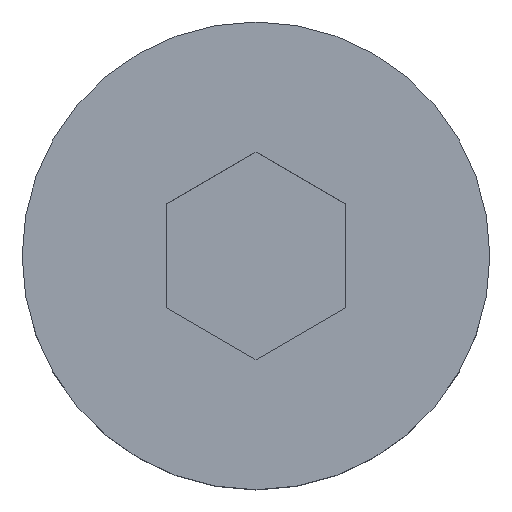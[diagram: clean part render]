
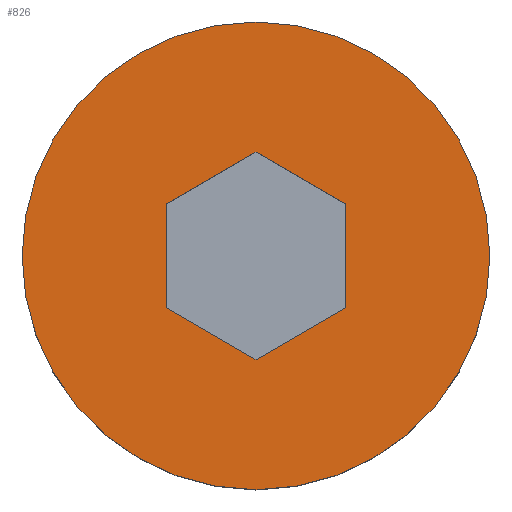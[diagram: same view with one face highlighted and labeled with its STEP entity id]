
A CAD part, top view. The second image highlights one B-rep face of the part: STEP entity #826.
In plain terms, the highlighted planar face has unit normal (0, 0, 1).
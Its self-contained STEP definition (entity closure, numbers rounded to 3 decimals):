
#15 = VECTOR ( 'NONE', #885, 1000. ) ;
#37 = LINE ( 'NONE', #762, #15 ) ;
#62 = VECTOR ( 'NONE', #829, 1000. ) ;
#90 = LINE ( 'NONE', #838, #62 ) ;
#125 = DIRECTION ( 'NONE',  ( 1., 0., 0. ) ) ;
#140 = EDGE_CURVE ( 'NONE', #947, #353, #213, .T. ) ;
#144 = DIRECTION ( 'NONE',  ( 0., 0., 1. ) ) ;
#154 = CARTESIAN_POINT ( 'NONE',  ( 0., 0., 8. ) ) ;
#188 = LINE ( 'NONE', #686, #1092 ) ;
#193 = CARTESIAN_POINT ( 'NONE',  ( 0., -5.774, 8. ) ) ;
#196 = CARTESIAN_POINT ( 'NONE',  ( 0., 5.774, 8. ) ) ;
#204 = LINE ( 'NONE', #769, #1134 ) ;
#213 = CIRCLE ( 'NONE', #1048, 13. ) ;
#220 = CARTESIAN_POINT ( 'NONE',  ( -13., 0., 8. ) ) ;
#223 = AXIS2_PLACEMENT_3D ( 'NONE', #154, #144, #125 ) ;
#301 = EDGE_LOOP ( 'NONE', ( #1075, #540 ) ) ;
#323 = CARTESIAN_POINT ( 'NONE',  ( 13., 0., 8. ) ) ;
#353 = VERTEX_POINT ( 'NONE', #220 ) ;
#415 = FACE_OUTER_BOUND ( 'NONE', #301, .T. ) ;
#417 = DIRECTION ( 'NONE',  ( 1., 0., 0. ) ) ;
#420 = DIRECTION ( 'NONE',  ( 0., 0., 1. ) ) ;
#432 = CARTESIAN_POINT ( 'NONE',  ( 0., 0., 8. ) ) ;
#461 = DIRECTION ( 'NONE',  ( 0.866, -0.5, 0. ) ) ;
#482 = VECTOR ( 'NONE', #461, 1000. ) ;
#484 = CARTESIAN_POINT ( 'NONE',  ( 7.25, -9.959, 8. ) ) ;
#507 = VERTEX_POINT ( 'NONE', #574 ) ;
#521 = ORIENTED_EDGE ( 'NONE', *, *, #862, .F. ) ;
#540 = ORIENTED_EDGE ( 'NONE', *, *, #776, .T. ) ;
#553 = PLANE ( 'NONE',  #980 ) ;
#565 = CARTESIAN_POINT ( 'NONE',  ( -5., -2.887, 8. ) ) ;
#574 = CARTESIAN_POINT ( 'NONE',  ( 5., -2.887, 8. ) ) ;
#579 = VERTEX_POINT ( 'NONE', #951 ) ;
#632 = ORIENTED_EDGE ( 'NONE', *, *, #814, .F. ) ;
#647 = EDGE_CURVE ( 'NONE', #909, #507, #1173, .T. ) ;
#656 = EDGE_CURVE ( 'NONE', #579, #897, #188, .T. ) ;
#671 = DIRECTION ( 'NONE',  ( -0.866, 0.5, 0. ) ) ;
#686 = CARTESIAN_POINT ( 'NONE',  ( 12.25, -1.299, 8. ) ) ;
#725 = DIRECTION ( 'NONE',  ( 0.866, 0.5, 0. ) ) ;
#727 = EDGE_CURVE ( 'NONE', #965, #909, #1041, .T. ) ;
#741 = DIRECTION ( 'NONE',  ( 0., 0., -1. ) ) ;
#749 = DIRECTION ( 'NONE',  ( -1., 0., 0. ) ) ;
#751 = CARTESIAN_POINT ( 'NONE',  ( 12.25, 1.299, 8. ) ) ;
#755 = ORIENTED_EDGE ( 'NONE', *, *, #656, .F. ) ;
#762 = CARTESIAN_POINT ( 'NONE',  ( 5., 0., 8. ) ) ;
#769 = CARTESIAN_POINT ( 'NONE',  ( 7.25, 9.959, 8. ) ) ;
#776 = EDGE_CURVE ( 'NONE', #353, #947, #875, .T. ) ;
#814 = EDGE_CURVE ( 'NONE', #507, #579, #37, .T. ) ;
#826 = ADVANCED_FACE ( 'NONE', ( #415, #1177 ), #553, .F. ) ;
#829 = DIRECTION ( 'NONE',  ( 0., -1., 0. ) ) ;
#838 = CARTESIAN_POINT ( 'NONE',  ( -5., 0., 8. ) ) ;
#862 = EDGE_CURVE ( 'NONE', #1014, #965, #90, .T. ) ;
#866 = CARTESIAN_POINT ( 'NONE',  ( -5., 2.887, 8. ) ) ;
#875 = CIRCLE ( 'NONE', #223, 13. ) ;
#885 = DIRECTION ( 'NONE',  ( 0., 1., 0. ) ) ;
#897 = VERTEX_POINT ( 'NONE', #196 ) ;
#909 = VERTEX_POINT ( 'NONE', #193 ) ;
#931 = EDGE_CURVE ( 'NONE', #897, #1014, #204, .T. ) ;
#947 = VERTEX_POINT ( 'NONE', #323 ) ;
#951 = CARTESIAN_POINT ( 'NONE',  ( 5., 2.887, 8. ) ) ;
#954 = CARTESIAN_POINT ( 'NONE',  ( 13., 0., 8. ) ) ;
#965 = VERTEX_POINT ( 'NONE', #565 ) ;
#980 = AXIS2_PLACEMENT_3D ( 'NONE', #954, #741, #749 ) ;
#1014 = VERTEX_POINT ( 'NONE', #866 ) ;
#1041 = LINE ( 'NONE', #484, #482 ) ;
#1048 = AXIS2_PLACEMENT_3D ( 'NONE', #432, #420, #417 ) ;
#1056 = ORIENTED_EDGE ( 'NONE', *, *, #647, .F. ) ;
#1057 = ORIENTED_EDGE ( 'NONE', *, *, #727, .F. ) ;
#1069 = ORIENTED_EDGE ( 'NONE', *, *, #931, .F. ) ;
#1071 = EDGE_LOOP ( 'NONE', ( #1069, #755, #632, #1056, #1057, #521 ) ) ;
#1075 = ORIENTED_EDGE ( 'NONE', *, *, #140, .T. ) ;
#1080 = DIRECTION ( 'NONE',  ( -0.866, -0.5, 0. ) ) ;
#1092 = VECTOR ( 'NONE', #671, 1000. ) ;
#1134 = VECTOR ( 'NONE', #1080, 1000. ) ;
#1172 = VECTOR ( 'NONE', #725, 1000. ) ;
#1173 = LINE ( 'NONE', #751, #1172 ) ;
#1177 = FACE_BOUND ( 'NONE', #1071, .T. ) ;
